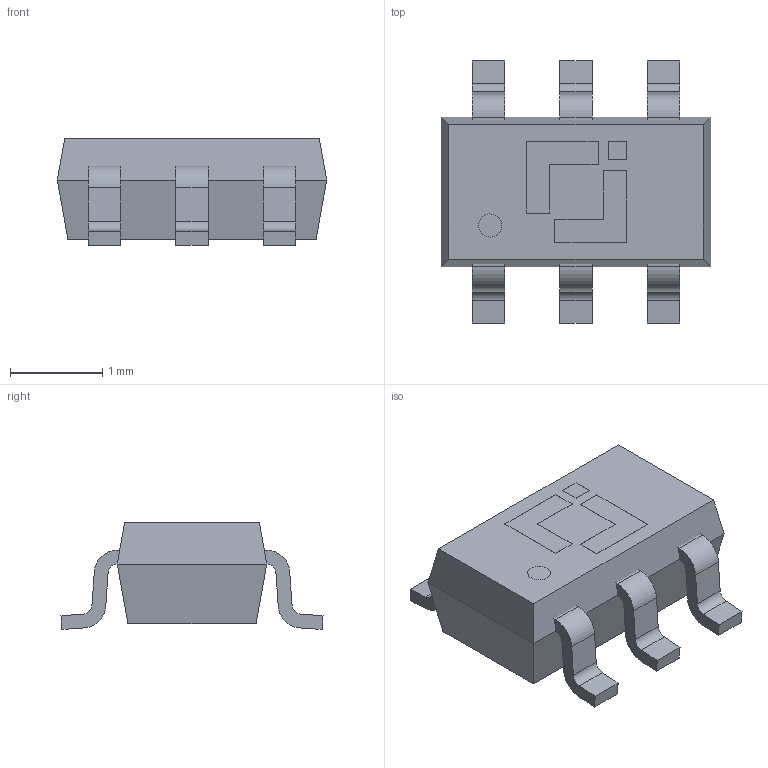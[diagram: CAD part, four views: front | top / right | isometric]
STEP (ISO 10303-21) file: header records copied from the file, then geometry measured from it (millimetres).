
FILE_DESCRIPTION(('HOOPS Exchange Step'),'2;1');
FILE_NAME('C:\Users\JSCJ\AppData\Local\Packages\Shapr3D.Shapr3D_dvv5p1vgwv6mp\TempState\export\temp_export','2025-12-04T10:40:54+08:00',('JSCJ'),('Shapr3D Limited'),'HOOPS Exchange 2025.7','Shapr3D','Authorized');
FILE_SCHEMA( ('AP242_MANAGED_MODEL_BASED_3D_ENGINEERING_MIM_LF {1 0 10303 442 1 1 4}') );
Length unit declared in the file: millimetre
Products named in the file (3): 直线图案 02; 直线图案 01; root
Assembly tree (2 placements, depth 2):
  root
    直线图案 02
    直线图案 01
Bounding box: 2.92 x 2.84 x 1.16 mm (x, y, z)
Volume: 5.1 mm3; surface area: 26.1 mm2
Topology: 7 solids, 7 shells, 115 faces, 289 edges, 192 vertices
Faces by surface type: plane 90, cylinder 25
Full cylindrical faces by diameter (mm): 0.25 x1
Entity records: 3527 total; most frequent: CARTESIAN_POINT 602, DIRECTION 583, ORIENTED_EDGE 578, EDGE_CURVE 289, VECTOR 237, LINE 237, VERTEX_POINT 192, AXIS2_PLACEMENT_3D 173
